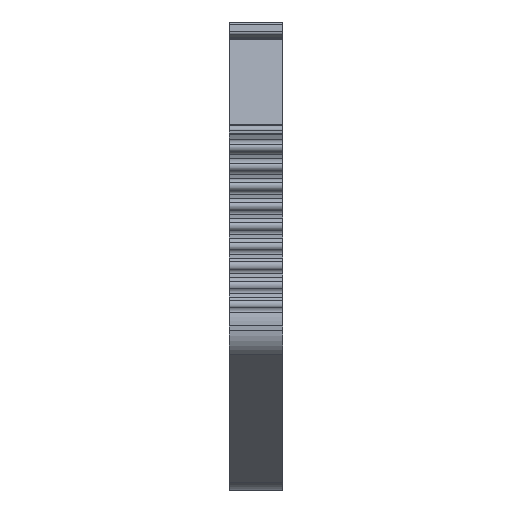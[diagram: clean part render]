
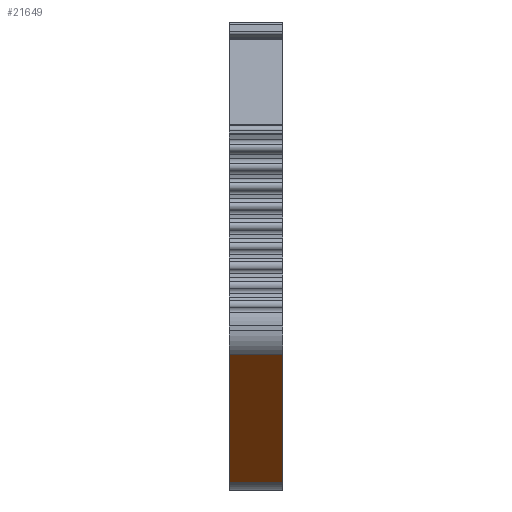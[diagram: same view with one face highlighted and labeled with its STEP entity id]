
A CAD part, left-side view. The second image highlights one B-rep face of the part: STEP entity #21649.
In plain terms, the highlighted planar face has unit normal (-0.646, 0, -0.763).
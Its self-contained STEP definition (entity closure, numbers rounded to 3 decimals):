
#1387=DIRECTION('',(0.763,0.,-0.646));
#1388=VECTOR('',#1387,12.969);
#1389=CARTESIAN_POINT('',(-52.017,0.,
-21.649));
#1390=LINE('',#1389,#1388);
#1858=DIRECTION('',(-0.763,0.,0.646));
#1859=VECTOR('',#1858,12.969);
#1860=CARTESIAN_POINT('',(-42.117,-3.5,
-30.027));
#1861=LINE('',#1860,#1859);
#2941=DIRECTION('',(0.,-1.,0.));
#2942=VECTOR('',#2941,3.5);
#2943=CARTESIAN_POINT('',(-42.117,0.,
-30.027));
#2944=LINE('',#2943,#2942);
#2953=DIRECTION('',(0.,1.,0.));
#2954=VECTOR('',#2953,3.5);
#2955=CARTESIAN_POINT('',(-52.017,-3.5,
-21.649));
#2956=LINE('',#2955,#2954);
#15789=CARTESIAN_POINT('',(-42.117,-3.5,
-30.027));
#15790=VERTEX_POINT('',#15789);
#15791=CARTESIAN_POINT('',(-52.017,-3.5,
-21.649));
#15792=VERTEX_POINT('',#15791);
#16499=CARTESIAN_POINT('',(-52.017,0.,
-21.649));
#16500=VERTEX_POINT('',#16499);
#16501=CARTESIAN_POINT('',(-42.117,0.,
-30.027));
#16502=VERTEX_POINT('',#16501);
#21637=CARTESIAN_POINT('',(-52.265,-3.588,
-21.44));
#21638=DIRECTION('',(0.646,0.,0.763));
#21639=DIRECTION('',(0.763,0.,-0.646));
#21640=AXIS2_PLACEMENT_3D('',#21637,#21638,#21639);
#21641=PLANE('',#21640);
#21642=ORIENTED_EDGE('',*,*,#21629,.F.);
#21643=ORIENTED_EDGE('',*,*,#20351,.F.);
#21645=ORIENTED_EDGE('',*,*,#21644,.F.);
#21646=ORIENTED_EDGE('',*,*,#20789,.F.);
#21647=EDGE_LOOP('',(#21642,#21643,#21645,#21646));
#21648=FACE_OUTER_BOUND('',#21647,.F.);
#21649=ADVANCED_FACE('',(#21648),#21641,.F.);
#20351=EDGE_CURVE('',#16500,#16502,#1390,.T.);
#20789=EDGE_CURVE('',#15790,#15792,#1861,.T.);
#21629=EDGE_CURVE('',#16502,#15790,#2944,.T.);
#21644=EDGE_CURVE('',#15792,#16500,#2956,.T.);
